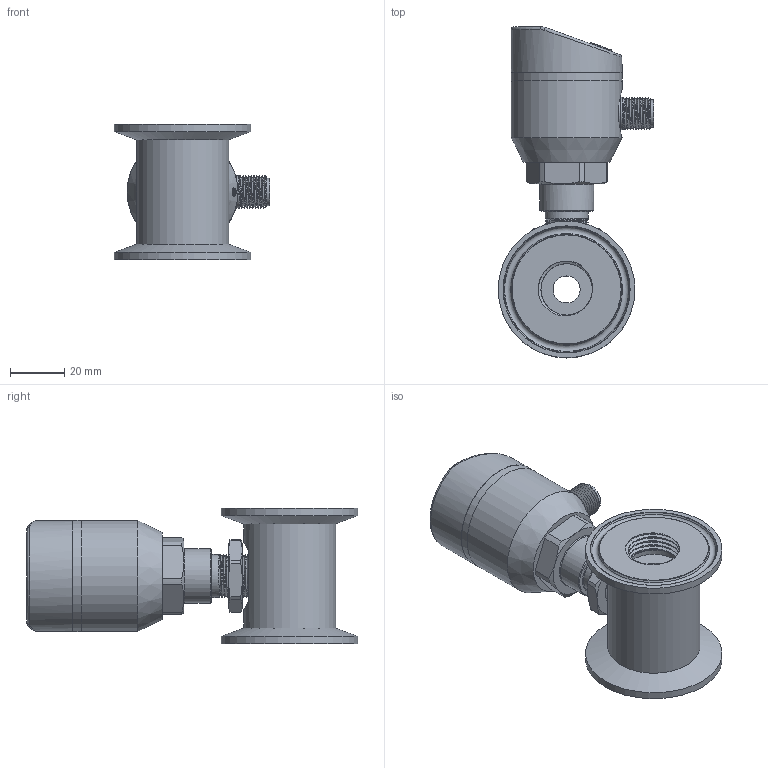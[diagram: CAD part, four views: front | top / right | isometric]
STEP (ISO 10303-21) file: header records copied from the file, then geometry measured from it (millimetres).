
FILE_DESCRIPTION( (''), '2;1');
FILE_NAME( 'QTKA_DN10_tri-clamp.step', '2024-01-11T14:03:50+08:00', (''), (''), '', '', '');
FILE_SCHEMA (('AUTOMOTIVE_DESIGN { 1 0 10303 214 3 1 1 1 }'));
Length unit declared in the file: millimetre
Products named in the file (1): QTKA DN10_tri-clamp
Bounding box: 57.43 x 122.55 x 50 mm (x, y, z)
Volume: 78357.7 mm3; surface area: 40019.5 mm2
Topology: 5 solids, 7 shells, 449 faces, 1078 edges, 682 vertices
Faces by surface type: plane 153, cylinder 144, cone 55, bspline 46, torus 45, sphere 6
Full cylindrical faces by diameter (mm): 1 x5, 2.7 x4, 8.4 x1, 9.7 x1, 9.8 x1, 10 x1, 10.1 x1, 11.6 x1, 12 x1, 15.9 x1, 17 x1, 20 x1, 21 x2, 23 x3, 26 x4, 26.1 x1, 34 x1, 37 x1, 41 x3, 50.5 x2
Entity records: 32417 total; most frequent: CARTESIAN_POINT 21202, DIRECTION 1968, ORIENTED_EDGE 1940, EDGE_CURVE 970, AXIS2_PLACEMENT_3D 796, VERTEX_POINT 642, EDGE_LOOP 562, ADVANCED_FACE 447
